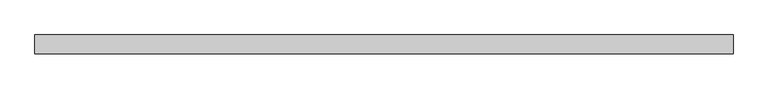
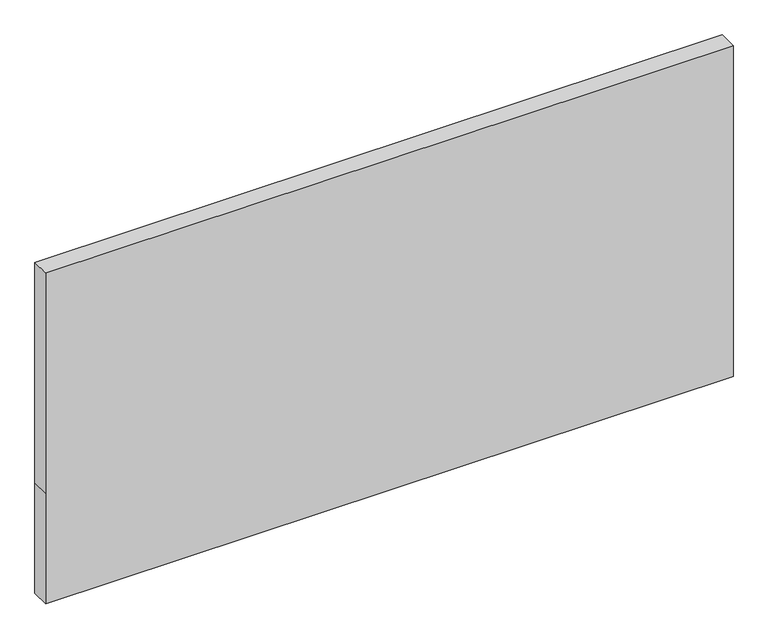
"""IFC4 building model written with IfcOpenShell, lengths in millimetres: plate geometry, 系统嵌板 : 玻璃."""

from ifc_helpers import new_model, si_unit, frame, origin, place, context, project, spatial, polyline, outline, extrude, source, transform, mapped, element, save


def plate_be698191(model_context):
    return source(origin(), model_context, "Body", "SweptSolid", [
        extrude(outline(polyline([(0.0, -1105.0), (0.0, 1105.0), (375.0, 1105.0), (1125.0, 1105.0), (1125.0, -1105.0), (375.0, -1105.0), (0.0, -1105.0)])), frame((0.0, -30.0, 0.0), z_axis=(0.0, 1.0, 0.0), x_axis=(0.0, 0.0, 1.0)), (0.0, 0.0, 1.0), 60.0),
    ])


if __name__ == "__main__":
    model = new_model("IFC4")
    model_context = context("Model", 3, world=origin())
    ifc_project = project(units=[si_unit("LENGTHUNIT", "METRE", prefix="MILLI")], contexts=[model_context])
    site = spatial("IfcSite", under=ifc_project)
    building = spatial("IfcBuilding", under=site)
    placement = place(None, origin())
    plate_shape = plate_be698191(model_context)
    element("IfcPlate", 1, ObjectType="系统嵌板 : 玻璃", at=placement, inside=building, context=model_context, shape_type="MappedRepresentation", body=[
        mapped(plate_shape, transform((0.0, 0.0, 0.0), x_axis=(1.0, 0.0, 0.0), y_axis=(0.0, 1.0, 0.0), z_axis=(0.0, 0.0, 1.0))),
    ])
    save(model, "model.ifc")
